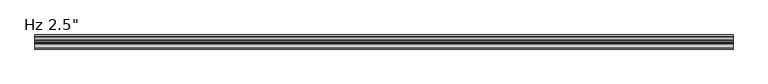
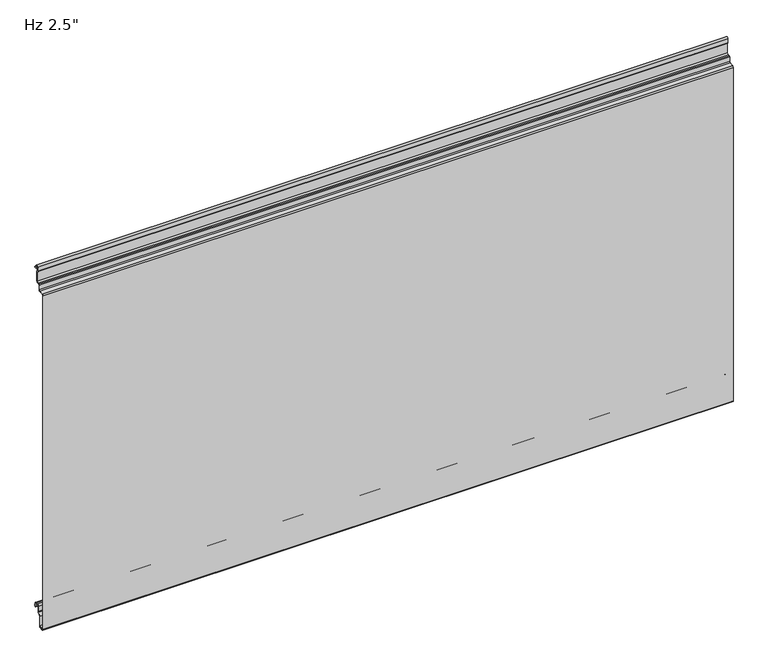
"""IFC4 building model written with IfcOpenShell, lengths in millimetres: plate geometry."""

import ifcopenshell
import ifcopenshell.guid

model = None  # the IFC model being written
_history = None  # IfcOwnerHistory: only IFC2X3 demands one
_inside = {}  # id of a spatial element -> (the spatial element, [elements in it])
_under = {}  # id of a project, library or spatial element -> (it, [spatial elements below it])
_declared = {}  # id of a project -> (the project, [libraries it declares])
_typed = {}  # id of a type object -> (the type object, [elements of that type])
_made_of = {}  # id of a material, layer set ... -> (it, [elements and type objects made of it])


def new_model(schema):
    """Start an empty IFC model of exactly this schema.

    Asked for "IFC4X3", IfcOpenShell would pick the latest addendum, in which some entities
    have other attributes; the version numbers below select the first issue.
    IFC2X3 requires an IfcOwnerHistory on every rooted entity: one is made here for all.
    """
    global model, _history
    if schema == "IFC4X3":
        model = ifcopenshell.file(schema_version=(4, 3, 0, 0))
    else:
        model = ifcopenshell.file(schema=schema)
    _inside.clear()
    _under.clear()
    _declared.clear()
    _typed.clear()
    _made_of.clear()
    _history = None
    if model.schema == "IFC2X3":
        org = make("IfcOrganization", Name="unknown")
        user = make(
            "IfcPersonAndOrganization",
            ThePerson=make("IfcPerson", FamilyName="unknown"),
            TheOrganization=org,
        )
        app = make(
            "IfcApplication",
            ApplicationDeveloper=org,
            Version="unknown",
            ApplicationFullName="unknown",
            ApplicationIdentifier="unknown",
        )
        _history = make(
            "IfcOwnerHistory",
            OwningUser=user,
            OwningApplication=app,
            ChangeAction="ADDED",
            CreationDate=0,
        )
    return model


def make(cls, **values):
    """One entity of the class cls with the attributes given. An attribute that is None is left unset."""
    return model.create_entity(
        cls, **{name: value for name, value in values.items() if value is not None}
    )


def rooted(cls, **values):
    """An entity with a GlobalId (a new one), such as an element, a storey or a relation."""
    return make(cls, GlobalId=ifcopenshell.guid.new(), OwnerHistory=_history, **values)


def si_unit(unit_type, name, prefix=None):
    """IfcSIUnit, for example si_unit("LENGTHUNIT", "METRE", prefix="MILLI")."""
    return make("IfcSIUnit", UnitType=unit_type, Prefix=prefix, Name=name)


def assignment(units):
    """IfcUnitAssignment: the units of a project."""
    return None if units is None else make("IfcUnitAssignment", Units=units)


def point(xyz):
    """IfcCartesianPoint."""
    return None if xyz is None else make("IfcCartesianPoint", Coordinates=xyz)


def direction(xyz):
    """IfcDirection."""
    return None if xyz is None else make("IfcDirection", DirectionRatios=xyz)


def frame(location, z_axis=None, x_axis=None):
    """IfcAxis2Placement3D, a coordinate frame: its origin and axes. An axis left out is left unset."""
    return make(
        "IfcAxis2Placement3D",
        Location=point(location),
        Axis=direction(z_axis),
        RefDirection=direction(x_axis),
    )


def frame_2d(location, x_axis=None):
    """IfcAxis2Placement2D, a coordinate frame in the plane: its origin and x axis."""
    return make(
        "IfcAxis2Placement2D", Location=point(location), RefDirection=direction(x_axis)
    )


def origin():
    """The frame at (0, 0, 0) with its axes left unset."""
    return frame((0.0, 0.0, 0.0))


def place(relative_to, where):
    """IfcLocalPlacement: puts the frame where relative to a parent placement (None: the world)."""
    return make(
        "IfcLocalPlacement", PlacementRelTo=relative_to, RelativePlacement=where
    )


def context(
    kind, dimensions, precision=None, world=None, true_north=None, identifier=None
):
    """IfcGeometricRepresentationContext, for example the 3D "Model" context."""
    return make(
        "IfcGeometricRepresentationContext",
        ContextIdentifier=identifier,
        ContextType=kind,
        CoordinateSpaceDimension=dimensions,
        Precision=precision,
        WorldCoordinateSystem=world,
        TrueNorth=true_north,
    )


def project(units=None, contexts=None):
    """IfcProject with its units and contexts."""
    return rooted(
        "IfcProject",
        Name="project",
        RepresentationContexts=contexts,
        UnitsInContext=assignment(units),
    )


def spatial(cls, under=None, at=None, **own):
    """A site, building, storey or space (cls), placed at a placement, below another one or the project."""
    s = rooted(cls, ObjectPlacement=at, **own)
    if under is not None:
        _under.setdefault(under.id(), (under, []))[1].append(s)
    return s


def polyline(points):
    """IfcPolyline through the points."""
    return make("IfcPolyline", Points=[point(p) for p in points])


def circle_curve(where, radius):
    """IfcCircle in the frame where."""
    return make("IfcCircle", Position=where, Radius=radius)


def trimmed(basis, trim1, trim2, sense, master):
    """IfcTrimmedCurve: the piece of a basis curve between two trims."""
    return make(
        "IfcTrimmedCurve",
        BasisCurve=basis,
        Trim1=trim1,
        Trim2=trim2,
        SenseAgreement=sense,
        MasterRepresentation=master,
    )


def segment(curve, same_sense, transition):
    """IfcCompositeCurveSegment."""
    return make(
        "IfcCompositeCurveSegment",
        Transition=transition,
        SameSense=same_sense,
        ParentCurve=curve,
    )


def composite_curve(segments, self_intersect=None):
    """IfcCompositeCurve: segments joined end to end."""
    return make("IfcCompositeCurve", Segments=segments, SelfIntersect=self_intersect)


def outline(outer, holes=None, kind="AREA"):
    """IfcArbitraryClosedProfileDef: a profile drawn as a closed curve; with holes, ...WithVoids."""
    if holes is None:
        return make("IfcArbitraryClosedProfileDef", ProfileType=kind, OuterCurve=outer)
    return make(
        "IfcArbitraryProfileDefWithVoids",
        ProfileType=kind,
        OuterCurve=outer,
        InnerCurves=holes,
    )


def extrude(swept, where, along, depth):
    """IfcExtrudedAreaSolid: the profile swept, set in the frame where, extruded along a direction by depth."""
    return make(
        "IfcExtrudedAreaSolid",
        SweptArea=swept,
        Position=where,
        ExtrudedDirection=direction(along),
        Depth=depth,
    )


def shape(context_of_items, identifier, shape_type, items):
    """IfcShapeRepresentation: the items that make up one representation, for example the "Body"."""
    return make(
        "IfcShapeRepresentation",
        ContextOfItems=context_of_items,
        RepresentationIdentifier=identifier,
        RepresentationType=shape_type,
        Items=items,
    )


def source(mapping_origin, context_of_items, identifier, shape_type, items):
    """IfcRepresentationMap: a shape defined once, which mapped items show again and again."""
    return make(
        "IfcRepresentationMap",
        MappingOrigin=mapping_origin,
        MappedRepresentation=shape(context_of_items, identifier, shape_type, items),
    )


def transform(
    local_origin,
    x_axis=None,
    y_axis=None,
    z_axis=None,
    scale=None,
    scale2=None,
    scale3=None,
    uniform=True,
):
    """IfcCartesianTransformationOperator3D, or its non-uniform kind. x_axis, y_axis, z_axis: its Axis1, 2, 3."""
    if uniform:
        return make(
            "IfcCartesianTransformationOperator3D",
            Axis1=direction(x_axis),
            Axis2=direction(y_axis),
            LocalOrigin=point(local_origin),
            Scale=scale,
            Axis3=direction(z_axis),
        )
    return make(
        "IfcCartesianTransformationOperator3DnonUniform",
        Axis1=direction(x_axis),
        Axis2=direction(y_axis),
        LocalOrigin=point(local_origin),
        Scale=scale,
        Axis3=direction(z_axis),
        Scale2=scale2,
        Scale3=scale3,
    )


def mapped(mapping_source, mapping_target):
    """IfcMappedItem: shows the shape of a source again, moved by a transform."""
    return make(
        "IfcMappedItem", MappingSource=mapping_source, MappingTarget=mapping_target
    )


def made_of(thing, what):
    """Note that an element or type object is made of a material, layer set ...; save() writes the relation."""
    if what is not None:
        _made_of.setdefault(what.id(), (what, []))[1].append(thing)
    return thing


def element(
    cls,
    number,
    at=None,
    inside=None,
    cuts=None,
    type_object=None,
    material=None,
    context=None,
    identifier="Body",
    shape_type=None,
    held_by="IfcProductDefinitionShape",
    body=None,
    shapes=None,
    **own,
):
    """One element of the class cls, such as IfcWall. Its Tag is "e" and its number.

    at: its placement. inside: the storey or other place that contains it. cuts: it is an
    opening in that element (IfcRelVoidsElement). A single representation is given by context,
    identifier, shape_type and body (its items); several are given by shapes. held_by: the class
    of the entity that holds the representations. save() writes the other relations.
    """
    e = rooted(cls, Tag="e%d" % number, ObjectPlacement=at, **own)
    if body is not None:
        shapes = [shape(context, identifier, shape_type, body)]
    if shapes is not None:
        e.Representation = make(held_by, Representations=shapes)
    if inside is not None:
        _inside.setdefault(inside.id(), (inside, []))[1].append(e)
    if cuts is not None:
        rooted(
            "IfcRelVoidsElement", RelatingBuildingElement=cuts, RelatedOpeningElement=e
        )
    if type_object is not None:
        _typed.setdefault(type_object.id(), (type_object, []))[1].append(e)
    return made_of(e, material)


def aggregate(whole, parts):
    """IfcRelAggregates: a whole, such as a stair, and the parts it consists of."""
    return rooted("IfcRelAggregates", RelatingObject=whole, RelatedObjects=parts)


def save(model, path):
    """Write the relations noted so far, then the file.

    IfcRelAggregates (storeys below a building ...), IfcRelContainedInSpatialStructure (elements
    in a storey), IfcRelDefinesByType, IfcRelAssociatesMaterial and IfcRelDeclares: one each for
    every whole, place, type object, material and project.
    """
    for whole, parts in _under.values():
        aggregate(whole, parts)
    for where, things in _inside.values():
        rooted(
            "IfcRelContainedInSpatialStructure",
            RelatedElements=things,
            RelatingStructure=where,
        )
    for kind, things in _typed.values():
        rooted("IfcRelDefinesByType", RelatedObjects=things, RelatingType=kind)
    for what, things in _made_of.values():
        rooted("IfcRelAssociatesMaterial", RelatedObjects=things, RelatingMaterial=what)
    for by, libraries in _declared.values():
        rooted("IfcRelDeclares", RelatingContext=by, RelatedDefinitions=libraries)
    model.write(path)


def plate_e248b932(model_context):
    return source(origin(), model_context, "Body", "SweptSolid", [
        extrude(outline(composite_curve([segment(trimmed(circle_curve(frame_2d((-59.9296795, -32.4521105)), 3.5702393), [point((-59.6184091, -36.0087549))], [point((-63.4999188, -32.4521083))], False, "CARTESIAN"), True, "CONTINUOUS"), segment(polyline([(-63.4999188, -32.4521083), (-63.4994418, 713.5384307)]), True, "CONTINUOUS"), segment(trimmed(circle_curve(frame_2d((-60.5494477, 713.5384288)), 2.9499941), [point((-63.4994418, 713.5384307))], [point((-60.8065566, 716.4771973))], False, "CARTESIAN"), True, "CONTINUOUS"), segment(polyline([(-60.8065566, 716.4771973), (-52.342179, 717.2177344)]), True, "CONTINUOUS"), segment(trimmed(circle_curve(frame_2d((-52.5191048, 719.2400056)), 2.0299959), [point((-52.342179, 717.2177344))], [point((-50.4917189, 719.3429135))], True, "CARTESIAN"), True, "CONTINUOUS"), segment(polyline([(-50.4917189, 719.3429135), (-50.4917189, 729.458279)]), True, "CONTINUOUS"), segment(trimmed(circle_curve(frame_2d((-48.5425659, 729.4595944)), 1.9491534), [point((-50.4917189, 729.458279))], [point((-48.5425659, 731.4087478))], False, "CARTESIAN"), True, "CONTINUOUS"), segment(polyline([(-48.5425659, 731.4087478), (-45.4011658, 731.4087475)]), True, "CONTINUOUS"), segment(trimmed(circle_curve(frame_2d((-45.4011658, 734.4087415)), 2.999994), [point((-45.4011658, 731.4087475))], [point((-42.4011718, 734.4087415))], True, "CARTESIAN"), True, "CONTINUOUS"), segment(polyline([(-42.4011718, 734.4087415), (-42.4011718, 755.0122013), (-43.6470159, 755.7314897)]), True, "CONTINUOUS"), segment(trimmed(circle_curve(frame_2d((-42.9220173, 756.987224)), 1.4499971), [point((-43.6470159, 755.7314897))], [point((-44.3712455, 757.0344401))], False, "CARTESIAN"), True, "CONTINUOUS"), segment(polyline([(-44.3712455, 757.0344401), (-44.0263372, 765.7463704)]), True, "CONTINUOUS"), segment(trimmed(circle_curve(frame_2d((-40.9268913, 765.6236622)), 3.1018739), [point((-44.0263372, 765.7463704))], [point((-37.8277704, 765.7543204))], False, "CARTESIAN"), True, "CONTINUOUS"), segment(polyline([(-37.8277704, 765.7543204), (-37.5839836, 761.7587)]), True, "CONTINUOUS"), segment(trimmed(circle_curve(frame_2d((-36.7437539, 761.8099653)), 0.8417922), [point((-37.5839836, 761.7587))], [point((-36.7732011, 760.9686884))], True, "CARTESIAN"), True, "CONTINUOUS"), segment(polyline([(-36.7732011, 760.9686884), (-34.0027683, 760.9686884), (-34.0027683, 759.9686884), (-36.7873149, 759.9686884)]), True, "CONTINUOUS"), segment(trimmed(circle_curve(frame_2d((-36.7437539, 761.8099653)), 1.8417922), [point((-36.7873149, 759.9686884))], [point((-38.5821274, 761.6977997))], False, "CARTESIAN"), True, "CONTINUOUS"), segment(polyline([(-38.5821274, 761.6977997), (-38.8265424, 765.7037148)]), True, "CONTINUOUS"), segment(trimmed(circle_curve(frame_2d((-40.9268913, 765.6236622)), 2.1018739), [point((-38.8265424, 765.7037148))], [point((-43.0271199, 765.706811))], True, "CARTESIAN"), True, "CONTINUOUS"), segment(polyline([(-43.0271199, 765.706811), (-43.3823803, 756.7334028), (-41.4011718, 755.5895515), (-41.4011718, 734.4087415)]), True, "CONTINUOUS"), segment(trimmed(circle_curve(frame_2d((-45.4011658, 734.4087415)), 3.999994), [point((-41.4011718, 734.4087415))], [point((-45.4011658, 730.4087475))], False, "CARTESIAN"), True, "CONTINUOUS"), segment(polyline([(-45.4011658, 730.4087475), (-48.5425659, 730.4087475)]), True, "CONTINUOUS"), segment(trimmed(circle_curve(frame_2d((-48.5425659, 729.4595944)), 0.9491534), [point((-48.5425659, 730.4087475))], [point((-49.4917189, 729.4586765))], True, "CARTESIAN"), True, "CONTINUOUS"), segment(polyline([(-49.4917189, 729.4586765), (-49.4917189, 719.3657441)]), True, "CONTINUOUS"), segment(trimmed(circle_curve(frame_2d((-52.5191048, 719.2400056)), 3.0299959), [point((-49.4917189, 719.3657441))], [point((-52.2550232, 716.2215397))], False, "CARTESIAN"), True, "CONTINUOUS"), segment(polyline([(-52.2550232, 716.2215397), (-60.7193197, 715.4810097)]), True, "CONTINUOUS"), segment(trimmed(circle_curve(frame_2d((-60.5493665, 713.5384359)), 1.9499941), [point((-60.7193197, 715.4810097))], [point((-62.4993606, 713.5384359))], True, "CARTESIAN"), True, "CONTINUOUS"), segment(polyline([(-62.4993606, 713.5384359), (-62.4993606, -32.509446)]), True, "CONTINUOUS"), segment(trimmed(circle_curve(frame_2d((-59.9297607, -32.4521176)), 2.5702393), [point((-62.4993606, -32.509446))], [point((-59.7056751, -35.0125699))], True, "CARTESIAN"), True, "CONTINUOUS"), segment(polyline([(-59.7056751, -35.0125699), (-54.7238542, -34.5765709)]), True, "CONTINUOUS"), segment(trimmed(circle_curve(frame_2d((-55.2052448, -31.9198392)), 2.6999926), [point((-54.7238542, -34.5765709))], [point((-52.5052522, -31.9198392))], True, "CARTESIAN"), True, "CONTINUOUS"), segment(polyline([(-52.5052522, -31.9198392), (-52.5052522, -9.8247096), (-47.0031811, -4.3226385)]), True, "CONTINUOUS"), segment(trimmed(circle_curve(frame_2d((-48.2052588, -3.1205608)), 1.6999946), [point((-47.0031811, -4.3226385))], [point((-46.5052642, -3.1205608))], True, "CARTESIAN"), True, "CONTINUOUS"), segment(polyline([(-46.5052642, -3.1205608), (-46.5052642, 8.6903283)]), True, "CONTINUOUS"), segment(trimmed(circle_curve(frame_2d((-43.1552689, 8.6903283)), 3.3499953), [point((-46.5052642, 8.6903283))], [point((-43.1552689, 12.0403236))], False, "CARTESIAN"), True, "CONTINUOUS"), segment(polyline([(-43.1552689, 12.0403236), (-38.7552777, 12.0403236)]), True, "CONTINUOUS"), segment(trimmed(circle_curve(frame_2d((-38.7552777, 8.6903283)), 3.3499953), [point((-38.7552777, 12.0403236))], [point((-35.4052824, 8.6903283))], False, "CARTESIAN"), True, "CONTINUOUS"), segment(polyline([(-35.4052824, 8.6903283), (-35.4052824, 5.9912173), (-34.0068035, 5.9912173), (-34.0068035, 2.2328239)]), True, "CONTINUOUS"), segment(trimmed(circle_curve(frame_2d((-35.2068002, 2.2313092)), 1.1999976), [point((-34.0068035, 2.2328239))], [point((-35.1762782, 1.0316999))], False, "CARTESIAN"), True, "CONTINUOUS"), segment(trimmed(circle_curve(frame_2d((-35.2068002, 2.2313092)), 1.1999976), [point((-35.1762782, 1.0316999))], [point((-36.4052824, 2.1710221))], False, "CARTESIAN"), True, "CONTINUOUS"), segment(polyline([(-36.4052824, 2.1710221), (-36.4052824, 8.6903283)]), True, "CONTINUOUS"), segment(trimmed(circle_curve(frame_2d((-38.7552777, 8.6903283)), 2.3499953), [point((-36.4052824, 8.6903283))], [point((-38.7552777, 11.0403236))], True, "CARTESIAN"), True, "CONTINUOUS"), segment(polyline([(-38.7552777, 11.0403236), (-43.1552689, 11.0403236)]), True, "CONTINUOUS"), segment(trimmed(circle_curve(frame_2d((-43.1552689, 8.6903283)), 2.3499953), [point((-43.1552689, 11.0403236))], [point((-45.5052642, 8.6903283))], True, "CARTESIAN"), True, "CONTINUOUS"), segment(polyline([(-45.5052642, 8.6903283), (-45.5052642, -3.1205608)]), True, "CONTINUOUS"), segment(trimmed(circle_curve(frame_2d((-48.2052588, -3.1205608)), 2.6999946), [point((-45.5052642, -3.1205608))], [point((-46.2960743, -5.0297453))], False, "CARTESIAN"), True, "CONTINUOUS"), segment(polyline([(-46.2960743, -5.0297453), (-51.1244918, -9.8581627)]), True, "CONTINUOUS"), segment(trimmed(circle_curve(frame_2d((-50.2052548, -10.7773997)), 1.2999974), [point((-51.1244918, -9.8581627))], [point((-51.5052522, -10.7773997))], True, "CARTESIAN"), True, "CONTINUOUS"), segment(polyline([(-51.5052522, -10.7773997), (-51.5052522, -31.9198392)]), True, "CONTINUOUS"), segment(trimmed(circle_curve(frame_2d((-55.2052448, -31.9198392)), 3.6999926), [point((-51.5052522, -31.9198392))], [point((-54.5944437, -35.5690675))], False, "CARTESIAN"), True, "CONTINUOUS"), segment(polyline([(-54.5944437, -35.5690675), (-59.6184091, -36.0087549)]), True, "CONTINUOUS")], self_intersect=False)), frame((-730.0, 0.0, 0.0), z_axis=(1.0, 0.0, 0.0), x_axis=(0.0, 1.0, 0.0)), (0.0, 0.0, 1.0), 1460.0),
    ])


if __name__ == "__main__":
    model = new_model("IFC4")
    model_context = context("Model", 3, world=origin())
    ifc_project = project(units=[si_unit("LENGTHUNIT", "METRE", prefix="MILLI")], contexts=[model_context])
    site = spatial("IfcSite", under=ifc_project)
    building = spatial("IfcBuilding", under=site)
    placement = place(None, origin())
    plate_shape = plate_e248b932(model_context)
    element("IfcPlate", 1, ObjectType="KIP-30-Karrier-KP-R19-CP-Hz-FL3-8in_SL : Hz 2.5\"", at=placement, inside=building, context=model_context, shape_type="MappedRepresentation", body=[
        mapped(plate_shape, transform((0.0, 0.0, 0.0), x_axis=(1.0, 0.0, 0.0), y_axis=(0.0, 1.0, 0.0), z_axis=(0.0, 0.0, 1.0))),
    ])
    save(model, "model.ifc")
